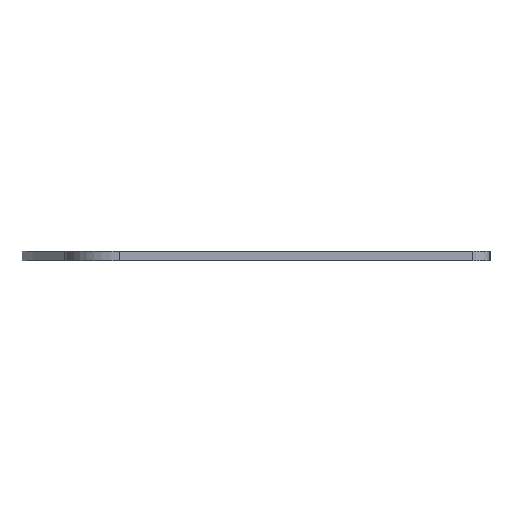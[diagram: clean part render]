
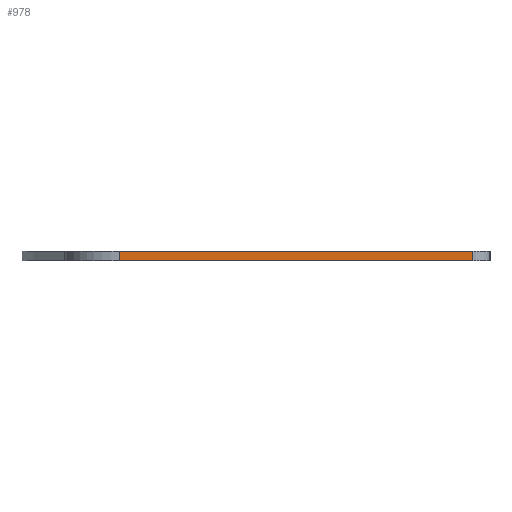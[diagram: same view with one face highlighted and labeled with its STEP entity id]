
A CAD part, left-side view. The second image highlights one B-rep face of the part: STEP entity #978.
In plain terms, the highlighted planar face has unit normal (-1, 0, 0).
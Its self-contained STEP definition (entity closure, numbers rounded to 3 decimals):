
#44 = CYLINDRICAL_SURFACE('',#45,2.222);
#45 = AXIS2_PLACEMENT_3D('',#46,#47,#48);
#46 = CARTESIAN_POINT('',(-96.748,3.252,0.));
#47 = DIRECTION('',(-0.,-0.,-1.));
#48 = DIRECTION('',(-1.,0.,0.));
#71 = PLANE('',#72);
#72 = AXIS2_PLACEMENT_3D('',#73,#74,#75);
#73 = CARTESIAN_POINT('',(0.,29.4,
    1.22));
#74 = DIRECTION('',(0.,0.,1.));
#75 = DIRECTION('',(1.,0.,-0.));
#124 = PLANE('',#125);
#125 = AXIS2_PLACEMENT_3D('',#126,#127,#128);
#126 = CARTESIAN_POINT('',(0.,29.4,0.));
#127 = DIRECTION('',(0.,0.,1.));
#128 = DIRECTION('',(1.,0.,-0.));
#139 = EDGE_CURVE('',#140,#142,#144,.T.);
#140 = VERTEX_POINT('',#141);
#141 = CARTESIAN_POINT('',(-98.97,3.252,0.));
#142 = VERTEX_POINT('',#143);
#143 = CARTESIAN_POINT('',(-98.97,3.252,1.22
    ));
#144 = SURFACE_CURVE('',#145,(#149,#155),.PCURVE_S1.);
#145 = LINE('',#146,#147);
#146 = CARTESIAN_POINT('',(-98.97,3.252,0.));
#147 = VECTOR('',#148,1.);
#148 = DIRECTION('',(0.,0.,1.));
#149 = PCURVE('',#44,#150);
#150 = DEFINITIONAL_REPRESENTATION('',(#151),#154);
#151 = B_SPLINE_CURVE_WITH_KNOTS('',1,(#152,#153),.UNSPECIFIED.,.F.,.F.,
  (2,2),(0.,1.22),.PIECEWISE_BEZIER_KNOTS.);
#152 = CARTESIAN_POINT('',(-6.283,0.));
#153 = CARTESIAN_POINT('',(-6.283,-1.22));
#154 = ( GEOMETRIC_REPRESENTATION_CONTEXT(2) 
PARAMETRIC_REPRESENTATION_CONTEXT() REPRESENTATION_CONTEXT('2D SPACE',''
  ) );
#155 = PCURVE('',#156,#161);
#156 = PLANE('',#157);
#157 = AXIS2_PLACEMENT_3D('',#158,#159,#160);
#158 = CARTESIAN_POINT('',(-98.97,48.723,0.));
#159 = DIRECTION('',(1.,0.,-0.));
#160 = DIRECTION('',(0.,-1.,0.));
#161 = DEFINITIONAL_REPRESENTATION('',(#162),#166);
#162 = LINE('',#163,#164);
#163 = CARTESIAN_POINT('',(45.471,0.));
#164 = VECTOR('',#165,1.);
#165 = DIRECTION('',(0.,-1.));
#166 = ( GEOMETRIC_REPRESENTATION_CONTEXT(2) 
PARAMETRIC_REPRESENTATION_CONTEXT() REPRESENTATION_CONTEXT('2D SPACE',''
  ) );
#371 = VERTEX_POINT('',#372);
#372 = CARTESIAN_POINT('',(-98.97,48.723,0.));
#387 = CYLINDRICAL_SURFACE('',#388,7.1);
#388 = AXIS2_PLACEMENT_3D('',#389,#390,#391);
#389 = CARTESIAN_POINT('',(-91.87,48.723,0.));
#390 = DIRECTION('',(-0.,-0.,-1.));
#391 = DIRECTION('',(-0.119,0.993,0.));
#398 = EDGE_CURVE('',#371,#140,#399,.T.);
#399 = SURFACE_CURVE('',#400,(#404,#411),.PCURVE_S1.);
#400 = LINE('',#401,#402);
#401 = CARTESIAN_POINT('',(-98.97,48.723,0.));
#402 = VECTOR('',#403,1.);
#403 = DIRECTION('',(0.,-1.,-0.));
#404 = PCURVE('',#124,#405);
#405 = DEFINITIONAL_REPRESENTATION('',(#406),#410);
#406 = LINE('',#407,#408);
#407 = CARTESIAN_POINT('',(-98.97,19.323));
#408 = VECTOR('',#409,1.);
#409 = DIRECTION('',(0.,-1.));
#410 = ( GEOMETRIC_REPRESENTATION_CONTEXT(2) 
PARAMETRIC_REPRESENTATION_CONTEXT() REPRESENTATION_CONTEXT('2D SPACE',''
  ) );
#411 = PCURVE('',#156,#412);
#412 = DEFINITIONAL_REPRESENTATION('',(#413),#417);
#413 = LINE('',#414,#415);
#414 = CARTESIAN_POINT('',(0.,0.));
#415 = VECTOR('',#416,1.);
#416 = DIRECTION('',(1.,0.));
#417 = ( GEOMETRIC_REPRESENTATION_CONTEXT(2) 
PARAMETRIC_REPRESENTATION_CONTEXT() REPRESENTATION_CONTEXT('2D SPACE',''
  ) );
#735 = VERTEX_POINT('',#736);
#736 = CARTESIAN_POINT('',(-98.97,48.723,
    1.22));
#757 = EDGE_CURVE('',#735,#142,#758,.T.);
#758 = SURFACE_CURVE('',#759,(#763,#770),.PCURVE_S1.);
#759 = LINE('',#760,#761);
#760 = CARTESIAN_POINT('',(-98.97,48.723,
    1.22));
#761 = VECTOR('',#762,1.);
#762 = DIRECTION('',(0.,-1.,-0.));
#763 = PCURVE('',#71,#764);
#764 = DEFINITIONAL_REPRESENTATION('',(#765),#769);
#765 = LINE('',#766,#767);
#766 = CARTESIAN_POINT('',(-98.97,19.323));
#767 = VECTOR('',#768,1.);
#768 = DIRECTION('',(0.,-1.));
#769 = ( GEOMETRIC_REPRESENTATION_CONTEXT(2) 
PARAMETRIC_REPRESENTATION_CONTEXT() REPRESENTATION_CONTEXT('2D SPACE',''
  ) );
#770 = PCURVE('',#156,#771);
#771 = DEFINITIONAL_REPRESENTATION('',(#772),#776);
#772 = LINE('',#773,#774);
#773 = CARTESIAN_POINT('',(0.,-1.22));
#774 = VECTOR('',#775,1.);
#775 = DIRECTION('',(1.,0.));
#776 = ( GEOMETRIC_REPRESENTATION_CONTEXT(2) 
PARAMETRIC_REPRESENTATION_CONTEXT() REPRESENTATION_CONTEXT('2D SPACE',''
  ) );
#978 = ADVANCED_FACE('',(#979),#156,.F.);
#979 = FACE_BOUND('',#980,.F.);
#980 = EDGE_LOOP('',(#981,#1001,#1002,#1003));
#981 = ORIENTED_EDGE('',*,*,#982,.T.);
#982 = EDGE_CURVE('',#371,#735,#983,.T.);
#983 = SURFACE_CURVE('',#984,(#988,#995),.PCURVE_S1.);
#984 = LINE('',#985,#986);
#985 = CARTESIAN_POINT('',(-98.97,48.723,0.));
#986 = VECTOR('',#987,1.);
#987 = DIRECTION('',(0.,0.,1.));
#988 = PCURVE('',#156,#989);
#989 = DEFINITIONAL_REPRESENTATION('',(#990),#994);
#990 = LINE('',#991,#992);
#991 = CARTESIAN_POINT('',(0.,0.));
#992 = VECTOR('',#993,1.);
#993 = DIRECTION('',(0.,-1.));
#994 = ( GEOMETRIC_REPRESENTATION_CONTEXT(2) 
PARAMETRIC_REPRESENTATION_CONTEXT() REPRESENTATION_CONTEXT('2D SPACE',''
  ) );
#995 = PCURVE('',#387,#996);
#996 = DEFINITIONAL_REPRESENTATION('',(#997),#1000);
#997 = B_SPLINE_CURVE_WITH_KNOTS('',1,(#998,#999),.UNSPECIFIED.,.F.,.F.,
  (2,2),(0.,1.22),.PIECEWISE_BEZIER_KNOTS.);
#998 = CARTESIAN_POINT('',(-7.735,0.));
#999 = CARTESIAN_POINT('',(-7.735,-1.22));
#1000 = ( GEOMETRIC_REPRESENTATION_CONTEXT(2) 
PARAMETRIC_REPRESENTATION_CONTEXT() REPRESENTATION_CONTEXT('2D SPACE',''
  ) );
#1001 = ORIENTED_EDGE('',*,*,#757,.T.);
#1002 = ORIENTED_EDGE('',*,*,#139,.F.);
#1003 = ORIENTED_EDGE('',*,*,#398,.F.);
